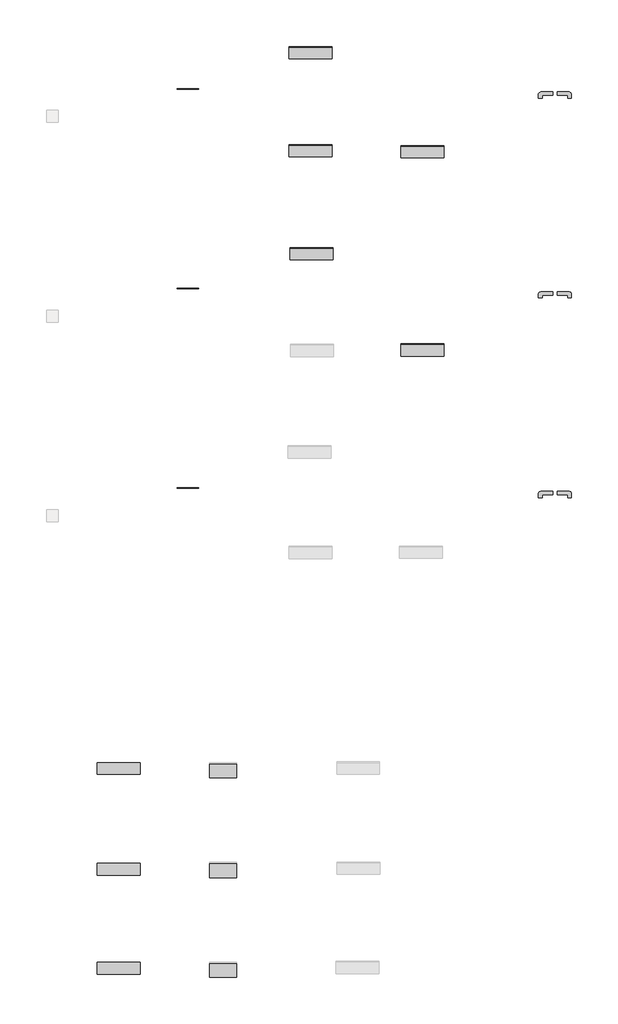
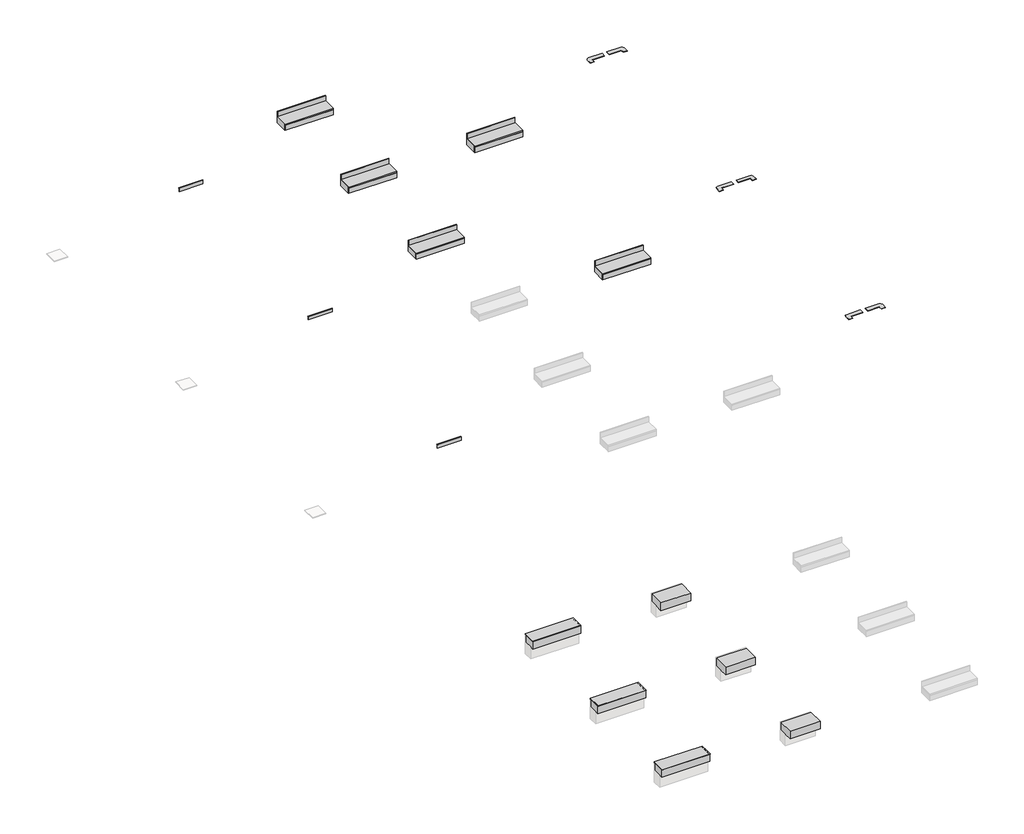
# One storey, part 2 of 2: 18 proxies, 5 stair flights.
"""IFC4 building model written with IfcOpenShell, lengths in millimetres."""

from ifc_helpers import new_model, si_unit, frame, origin, place, context, project, spatial, polyline, outline, extrude, faceted_brep, transform, mapped, element, save
from components import generic_models_5bab8272, generic_models_6290b49e

model = new_model("IFC4")

# Units and contexts
model_context = context("Model", 3, world=origin())
ifc_project = project(units=[si_unit("LENGTHUNIT", "METRE", prefix="MILLI")], contexts=[model_context])

# Site, building, storey
site = spatial("IfcSite", under=ifc_project)
building = spatial("IfcBuilding", under=site)
storey = spatial("IfcBuildingStorey", under=building, Name="EXAGRES_Serie MILAN_Catalogo", Elevation=5000.0)

# Proxies
placement = place(None, origin())
element("IfcBuildingElementProxy", 1, Name="Exagres_Milan_Arena_Rodapie_9x60", ObjectType="Exagres_Milan_Arena_Rodapie_9x60", at=placement, inside=storey, context=model_context, shape_type="SweptSolid", body=[
    extrude(outline(polyline([(-1402.2299086, 5090.0), (-1402.2299086, 5000.0), (-1417.2299086, 5000.0), (-1417.2299086, 5085.0), (-1412.2299086, 5090.0), (-1402.2299086, 5090.0)])), frame((8532.990681, 0.0, 0.0), z_axis=(1.0, 0.0, 0.0), x_axis=(0.0, 1.0, 0.0)), (0.0, 0.0, 1.0), 600.0),
])
element("IfcBuildingElementProxy", 2, Name="Exagres_Milan_Gris_Rodapie_9x60", ObjectType="Exagres_Milan_Gris_Rodapie_9x60", at=placement, inside=storey, context=model_context, shape_type="SweptSolid", body=[
    extrude(outline(polyline([(-7002.2299086, 5090.0), (-7002.2299086, 5000.0), (-7017.2299086, 5000.0), (-7017.2299086, 5085.0), (-7012.2299086, 5090.0), (-7002.2299086, 5090.0)])), frame((8532.990681, 0.0, 0.0), z_axis=(1.0, 0.0, 0.0), x_axis=(0.0, 1.0, 0.0)), (0.0, 0.0, 1.0), 600.0),
])
element("IfcBuildingElementProxy", 3, Name="Exagres_Milan_Marengo_Rodapie_9x60", ObjectType="Exagres_Milan_Marengo_Rodapie_9x60", at=placement, inside=storey, context=model_context, shape_type="SweptSolid", body=[
    extrude(outline(polyline([(-12602.2299086, 5090.0), (-12602.2299086, 5000.0), (-12617.2299086, 5000.0), (-12617.2299086, 5085.0), (-12612.2299086, 5090.0), (-12602.2299086, 5090.0)])), frame((8532.990681, 0.0, 0.0), z_axis=(1.0, 0.0, 0.0), x_axis=(0.0, 1.0, 0.0)), (0.0, 0.0, 1.0), 600.0),
])
element("IfcBuildingElementProxy", 4, Name="Wall Sweeps", at=placement, inside=storey, context=model_context, shape_type="SweptSolid", body=[
    extrude(outline(polyline([(-20321.4497575, 5500.0), (-20321.4497575, 5508.0), (-20320.4497575, 5508.0), (-20320.4497575, 5514.0), (-20321.4497575, 5514.0), (-20321.4497575, 5521.0), (-20328.4497575, 5521.0), (-20328.4497575, 5522.0), (-20332.4497575, 5522.0), (-20332.4497575, 5521.0), (-20338.4497575, 5521.0), (-20338.4497575, 5522.0), (-20342.4497575, 5522.0), (-20342.4497575, 5521.0), (-20348.4497575, 5521.0), (-20348.4497575, 5522.0), (-20352.4497575, 5522.0), (-20352.4497575, 5521.0), (-20358.4497575, 5521.0), (-20358.4497575, 5522.0), (-20362.4497575, 5522.0), (-20362.4497575, 5521.0), (-20368.4497575, 5521.0), (-20368.4497575, 5522.0), (-20372.4497575, 5522.0), (-20372.4497575, 5521.0), (-20378.4497575, 5521.0), (-20378.4497575, 5522.0), (-20382.4497575, 5522.0), (-20382.4497575, 5521.0), (-20388.4497575, 5521.0), (-20388.4497575, 5522.0), (-20392.4497575, 5522.0), (-20392.4497575, 5521.0), (-20398.4497575, 5521.0), (-20398.4497575, 5522.0), (-20402.4497575, 5522.0), (-20402.4497575, 5521.0), (-20408.4497575, 5521.0), (-20408.4497575, 5522.0), (-20412.4497575, 5522.0), (-20412.4497575, 5521.0), (-20418.4497575, 5521.0), (-20418.4497575, 5522.0), (-20422.4497575, 5522.0), (-20422.4497575, 5521.0), (-20428.4497575, 5521.0), (-20428.4497575, 5522.0), (-20432.4497575, 5522.0), (-20432.4497575, 5521.0), (-20438.4497575, 5521.0), (-20438.4497575, 5522.0), (-20442.4497575, 5522.0), (-20442.4497575, 5521.0), (-20448.4497575, 5521.0), (-20448.4497575, 5522.0), (-20452.4497575, 5522.0), (-20452.4497575, 5521.0), (-20458.4497575, 5521.0), (-20458.4497575, 5522.0), (-20462.4497575, 5522.0), (-20462.4497575, 5521.0), (-20468.4497575, 5521.0), (-20468.4497575, 5522.0), (-20472.4497575, 5522.0), (-20472.4497575, 5521.0), (-20478.4497575, 5521.0), (-20478.4497575, 5522.0), (-20482.4497575, 5522.0), (-20482.4497575, 5521.0), (-20488.4497575, 5521.0), (-20488.4497575, 5522.0), (-20492.4497575, 5522.0), (-20492.4497575, 5521.0), (-20498.4497575, 5521.0), (-20498.4497575, 5522.0), (-20502.4497575, 5522.0), (-20502.4497575, 5521.0), (-20508.4497575, 5521.0), (-20508.4497575, 5522.0), (-20512.4497575, 5522.0), (-20512.4497575, 5521.0), (-20518.4497575, 5521.0), (-20518.4497575, 5522.0), (-20522.4497575, 5522.0), (-20522.4497575, 5521.0), (-20528.4497575, 5521.0), (-20528.4497575, 5522.0), (-20532.4497575, 5522.0), (-20532.4497575, 5521.0), (-20538.4497575, 5521.0), (-20538.4497575, 5522.0), (-20542.4497575, 5522.0), (-20542.4497575, 5521.0), (-20548.4497575, 5521.0), (-20548.4497575, 5522.0), (-20552.4497575, 5522.0), (-20552.4497575, 5521.0), (-20558.4497575, 5521.0), (-20558.4497575, 5522.0), (-20562.4497575, 5522.0), (-20562.4497575, 5521.0), (-20568.4497575, 5521.0), (-20568.4497575, 5522.0), (-20572.4497575, 5522.0), (-20572.4497575, 5521.0), (-20578.4497575, 5521.0), (-20578.4497575, 5522.0), (-20582.4497575, 5522.0), (-20582.4497575, 5521.0), (-20588.4497575, 5521.0), (-20588.4497575, 5522.0), (-20592.4497575, 5522.0), (-20592.4497575, 5521.0), (-20598.4497575, 5521.0), (-20598.4497575, 5522.0), (-20602.4497575, 5522.0), (-20602.4497575, 5521.0), (-20608.4497575, 5521.0), (-20608.4497575, 5522.0), (-20612.4497575, 5522.0), (-20612.4497575, 5521.0), (-20618.4497575, 5521.0), (-20618.4497575, 5522.0), (-20622.4497575, 5522.0), (-20622.4497575, 5521.0), (-20628.4497575, 5521.0), (-20628.4497575, 5522.0), (-20632.4497575, 5522.0), (-20632.4497575, 5521.0), (-20638.4497575, 5521.0), (-20638.4497575, 5533.0), (-20308.4497575, 5533.0), (-20308.4497575, 5500.0), (-20321.4497575, 5500.0)])), frame((6298.0543811, 0.0, 0.0), z_axis=(1.0, 0.0, 0.0), x_axis=(0.0, 1.0, 0.0)), (0.0, 0.0, 1.0), 1202.0),
])
element("IfcBuildingElementProxy", 5, Name="Wall Sweeps", at=placement, inside=storey, context=model_context, shape_type="Brep", body=[
    faceted_brep([(6298.0543811, -20628.4497575, 5318.74), (6298.0543811, -20628.4497575, 5518.74), (6298.0543811, -20323.4497575, 5518.74), (6298.0543811, -20323.4497575, 5500.0), (6298.0543811, -20323.4497575, 5318.74), (6298.0543811, -20533.4497575, 5318.74), (7500.0543811, -20628.4497575, 5318.74), (7500.0543811, -20533.4497575, 5318.74), (7500.0543811, -20323.4497575, 5318.74), (7500.0543811, -20323.4497575, 5500.0), (7500.0543811, -20323.4497575, 5518.74), (7500.0543811, -20628.4497575, 5518.74)], [[[0, 1, 2, 3, 4, 5]], [[6, 7, 8, 9, 10, 11]], [[0, 5, 4, 8, 7, 6]], [[4, 3, 2, 10, 9, 8]], [[2, 1, 11, 10]], [[1, 0, 6, 11]]]),
])
element("IfcBuildingElementProxy", 6, Name="Wall Sweeps", at=placement, inside=storey, context=model_context, shape_type="SweptSolid", body=[
    extrude(outline(polyline([(-23146.4497575, 5500.0), (-23146.4497575, 5508.0), (-23145.4497575, 5508.0), (-23145.4497575, 5514.0), (-23146.4497575, 5514.0), (-23146.4497575, 5521.0), (-23153.4497575, 5521.0), (-23153.4497575, 5522.0), (-23157.4497575, 5522.0), (-23157.4497575, 5521.0), (-23163.4497575, 5521.0), (-23163.4497575, 5522.0), (-23167.4497575, 5522.0), (-23167.4497575, 5521.0), (-23173.4497575, 5521.0), (-23173.4497575, 5522.0), (-23177.4497575, 5522.0), (-23177.4497575, 5521.0), (-23183.4497575, 5521.0), (-23183.4497575, 5522.0), (-23187.4497575, 5522.0), (-23187.4497575, 5521.0), (-23193.4497575, 5521.0), (-23193.4497575, 5522.0), (-23197.4497575, 5522.0), (-23197.4497575, 5521.0), (-23203.4497575, 5521.0), (-23203.4497575, 5522.0), (-23207.4497575, 5522.0), (-23207.4497575, 5521.0), (-23213.4497575, 5521.0), (-23213.4497575, 5522.0), (-23217.4497575, 5522.0), (-23217.4497575, 5521.0), (-23223.4497575, 5521.0), (-23223.4497575, 5522.0), (-23227.4497575, 5522.0), (-23227.4497575, 5521.0), (-23233.4497575, 5521.0), (-23233.4497575, 5522.0), (-23237.4497575, 5522.0), (-23237.4497575, 5521.0), (-23243.4497575, 5521.0), (-23243.4497575, 5522.0), (-23247.4497575, 5522.0), (-23247.4497575, 5521.0), (-23253.4497575, 5521.0), (-23253.4497575, 5522.0), (-23257.4497575, 5522.0), (-23257.4497575, 5521.0), (-23263.4497575, 5521.0), (-23263.4497575, 5522.0), (-23267.4497575, 5522.0), (-23267.4497575, 5521.0), (-23273.4497575, 5521.0), (-23273.4497575, 5522.0), (-23277.4497575, 5522.0), (-23277.4497575, 5521.0), (-23283.4497575, 5521.0), (-23283.4497575, 5522.0), (-23287.4497575, 5522.0), (-23287.4497575, 5521.0), (-23293.4497575, 5521.0), (-23293.4497575, 5522.0), (-23297.4497575, 5522.0), (-23297.4497575, 5521.0), (-23303.4497575, 5521.0), (-23303.4497575, 5522.0), (-23307.4497575, 5522.0), (-23307.4497575, 5521.0), (-23313.4497575, 5521.0), (-23313.4497575, 5522.0), (-23317.4497575, 5522.0), (-23317.4497575, 5521.0), (-23323.4497575, 5521.0), (-23323.4497575, 5522.0), (-23327.4497575, 5522.0), (-23327.4497575, 5521.0), (-23333.4497575, 5521.0), (-23333.4497575, 5522.0), (-23337.4497575, 5522.0), (-23337.4497575, 5521.0), (-23343.4497575, 5521.0), (-23343.4497575, 5522.0), (-23347.4497575, 5522.0), (-23347.4497575, 5521.0), (-23353.4497575, 5521.0), (-23353.4497575, 5522.0), (-23357.4497575, 5522.0), (-23357.4497575, 5521.0), (-23363.4497575, 5521.0), (-23363.4497575, 5522.0), (-23367.4497575, 5522.0), (-23367.4497575, 5521.0), (-23373.4497575, 5521.0), (-23373.4497575, 5522.0), (-23377.4497575, 5522.0), (-23377.4497575, 5521.0), (-23383.4497575, 5521.0), (-23383.4497575, 5522.0), (-23387.4497575, 5522.0), (-23387.4497575, 5521.0), (-23393.4497575, 5521.0), (-23393.4497575, 5522.0), (-23397.4497575, 5522.0), (-23397.4497575, 5521.0), (-23403.4497575, 5521.0), (-23403.4497575, 5522.0), (-23407.4497575, 5522.0), (-23407.4497575, 5521.0), (-23413.4497575, 5521.0), (-23413.4497575, 5522.0), (-23417.4497575, 5522.0), (-23417.4497575, 5521.0), (-23423.4497575, 5521.0), (-23423.4497575, 5522.0), (-23427.4497575, 5522.0), (-23427.4497575, 5521.0), (-23433.4497575, 5521.0), (-23433.4497575, 5522.0), (-23437.4497575, 5522.0), (-23437.4497575, 5521.0), (-23443.4497575, 5521.0), (-23443.4497575, 5522.0), (-23447.4497575, 5522.0), (-23447.4497575, 5521.0), (-23453.4497575, 5521.0), (-23453.4497575, 5522.0), (-23457.4497575, 5522.0), (-23457.4497575, 5521.0), (-23463.4497575, 5521.0), (-23463.4497575, 5533.0), (-23133.4497575, 5533.0), (-23133.4497575, 5500.0), (-23146.4497575, 5500.0)])), frame((6298.0543811, 0.0, 0.0), z_axis=(1.0, 0.0, 0.0), x_axis=(0.0, 1.0, 0.0)), (0.0, 0.0, 1.0), 1202.0),
])
element("IfcBuildingElementProxy", 7, Name="Wall Sweeps", at=placement, inside=storey, context=model_context, shape_type="Brep", body=[
    faceted_brep([(6298.0543811, -23453.4497575, 5318.74), (6298.0543811, -23453.4497575, 5518.74), (6298.0543811, -23148.4497575, 5518.74), (6298.0543811, -23148.4497575, 5500.0), (6298.0543811, -23148.4497575, 5318.74), (6298.0543811, -23358.4497575, 5318.74), (7500.0543811, -23453.4497575, 5318.74), (7500.0543811, -23358.4497575, 5318.74), (7500.0543811, -23148.4497575, 5318.74), (7500.0543811, -23148.4497575, 5500.0), (7500.0543811, -23148.4497575, 5518.74), (7500.0543811, -23453.4497575, 5518.74)], [[[0, 1, 2, 3, 4, 5]], [[6, 7, 8, 9, 10, 11]], [[0, 5, 4, 8, 7, 6]], [[4, 3, 2, 10, 9, 8]], [[2, 1, 11, 10]], [[1, 0, 6, 11]]]),
])
element("IfcBuildingElementProxy", 8, Name="Wall Sweeps", at=placement, inside=storey, context=model_context, shape_type="SweptSolid", body=[
    extrude(outline(polyline([(-25921.4497575, 5500.0), (-25921.4497575, 5508.0), (-25920.4497575, 5508.0), (-25920.4497575, 5514.0), (-25921.4497575, 5514.0), (-25921.4497575, 5521.0), (-25928.4497575, 5521.0), (-25928.4497575, 5522.0), (-25932.4497575, 5522.0), (-25932.4497575, 5521.0), (-25938.4497575, 5521.0), (-25938.4497575, 5522.0), (-25942.4497575, 5522.0), (-25942.4497575, 5521.0), (-25948.4497575, 5521.0), (-25948.4497575, 5522.0), (-25952.4497575, 5522.0), (-25952.4497575, 5521.0), (-25958.4497575, 5521.0), (-25958.4497575, 5522.0), (-25962.4497575, 5522.0), (-25962.4497575, 5521.0), (-25968.4497575, 5521.0), (-25968.4497575, 5522.0), (-25972.4497575, 5522.0), (-25972.4497575, 5521.0), (-25978.4497575, 5521.0), (-25978.4497575, 5522.0), (-25982.4497575, 5522.0), (-25982.4497575, 5521.0), (-25988.4497575, 5521.0), (-25988.4497575, 5522.0), (-25992.4497575, 5522.0), (-25992.4497575, 5521.0), (-25998.4497575, 5521.0), (-25998.4497575, 5522.0), (-26002.4497575, 5522.0), (-26002.4497575, 5521.0), (-26008.4497575, 5521.0), (-26008.4497575, 5522.0), (-26012.4497575, 5522.0), (-26012.4497575, 5521.0), (-26018.4497575, 5521.0), (-26018.4497575, 5522.0), (-26022.4497575, 5522.0), (-26022.4497575, 5521.0), (-26028.4497575, 5521.0), (-26028.4497575, 5522.0), (-26032.4497575, 5522.0), (-26032.4497575, 5521.0), (-26038.4497575, 5521.0), (-26038.4497575, 5522.0), (-26042.4497575, 5522.0), (-26042.4497575, 5521.0), (-26048.4497575, 5521.0), (-26048.4497575, 5522.0), (-26052.4497575, 5522.0), (-26052.4497575, 5521.0), (-26058.4497575, 5521.0), (-26058.4497575, 5522.0), (-26062.4497575, 5522.0), (-26062.4497575, 5521.0), (-26068.4497575, 5521.0), (-26068.4497575, 5522.0), (-26072.4497575, 5522.0), (-26072.4497575, 5521.0), (-26078.4497575, 5521.0), (-26078.4497575, 5522.0), (-26082.4497575, 5522.0), (-26082.4497575, 5521.0), (-26088.4497575, 5521.0), (-26088.4497575, 5522.0), (-26092.4497575, 5522.0), (-26092.4497575, 5521.0), (-26098.4497575, 5521.0), (-26098.4497575, 5522.0), (-26102.4497575, 5522.0), (-26102.4497575, 5521.0), (-26108.4497575, 5521.0), (-26108.4497575, 5522.0), (-26112.4497575, 5522.0), (-26112.4497575, 5521.0), (-26118.4497575, 5521.0), (-26118.4497575, 5522.0), (-26122.4497575, 5522.0), (-26122.4497575, 5521.0), (-26128.4497575, 5521.0), (-26128.4497575, 5522.0), (-26132.4497575, 5522.0), (-26132.4497575, 5521.0), (-26138.4497575, 5521.0), (-26138.4497575, 5522.0), (-26142.4497575, 5522.0), (-26142.4497575, 5521.0), (-26148.4497575, 5521.0), (-26148.4497575, 5522.0), (-26152.4497575, 5522.0), (-26152.4497575, 5521.0), (-26158.4497575, 5521.0), (-26158.4497575, 5522.0), (-26162.4497575, 5522.0), (-26162.4497575, 5521.0), (-26168.4497575, 5521.0), (-26168.4497575, 5522.0), (-26172.4497575, 5522.0), (-26172.4497575, 5521.0), (-26178.4497575, 5521.0), (-26178.4497575, 5522.0), (-26182.4497575, 5522.0), (-26182.4497575, 5521.0), (-26188.4497575, 5521.0), (-26188.4497575, 5522.0), (-26192.4497575, 5522.0), (-26192.4497575, 5521.0), (-26198.4497575, 5521.0), (-26198.4497575, 5522.0), (-26202.4497575, 5522.0), (-26202.4497575, 5521.0), (-26208.4497575, 5521.0), (-26208.4497575, 5522.0), (-26212.4497575, 5522.0), (-26212.4497575, 5521.0), (-26218.4497575, 5521.0), (-26218.4497575, 5522.0), (-26222.4497575, 5522.0), (-26222.4497575, 5521.0), (-26228.4497575, 5521.0), (-26228.4497575, 5522.0), (-26232.4497575, 5522.0), (-26232.4497575, 5521.0), (-26238.4497575, 5521.0), (-26238.4497575, 5533.0), (-25908.4497575, 5533.0), (-25908.4497575, 5500.0), (-25921.4497575, 5500.0)])), frame((6298.0543811, 0.0, 0.0), z_axis=(1.0, 0.0, 0.0), x_axis=(0.0, 1.0, 0.0)), (0.0, 0.0, 1.0), 1202.0),
])
element("IfcBuildingElementProxy", 9, Name="Wall Sweeps", at=placement, inside=storey, context=model_context, shape_type="Brep", body=[
    faceted_brep([(6298.0543811, -26228.4497575, 5318.74), (6298.0543811, -26228.4497575, 5518.74), (6298.0543811, -25923.4497575, 5518.74), (6298.0543811, -25923.4497575, 5500.0), (6298.0543811, -25923.4497575, 5318.74), (6298.0543811, -26133.4497575, 5318.74), (7500.0543811, -26228.4497575, 5318.74), (7500.0543811, -26133.4497575, 5318.74), (7500.0543811, -25923.4497575, 5318.74), (7500.0543811, -25923.4497575, 5500.0), (7500.0543811, -25923.4497575, 5518.74), (7500.0543811, -26228.4497575, 5518.74)], [[[0, 1, 2, 3, 4, 5]], [[6, 7, 8, 9, 10, 11]], [[0, 5, 4, 8, 7, 6]], [[4, 3, 2, 10, 9, 8]], [[2, 1, 11, 10]], [[1, 0, 6, 11]]]),
])
element("IfcBuildingElementProxy", 10, Name="Wall Sweeps", at=placement, inside=storey, context=model_context, shape_type="Brep", body=[
    faceted_brep([(9448.0543811, -20733.4497575, 5300.0), (9448.0543811, -20733.4497575, 5500.0), (9448.0543811, -20333.4497575, 5500.0), (9448.0543811, -20333.4497575, 5300.0), (9448.0543811, -20533.4497575, 5300.0), (10198.0543811, -20733.4497575, 5300.0), (10198.0543811, -20533.4497575, 5300.0), (10198.0543811, -20333.4497575, 5300.0), (10198.0543811, -20333.4497575, 5500.0), (10198.0543811, -20733.4497575, 5500.0)], [[[0, 1, 2, 3, 4]], [[5, 6, 7, 8, 9]], [[0, 4, 3, 7, 6, 5]], [[3, 2, 8, 7]], [[2, 1, 9, 8]], [[1, 0, 5, 9]]]),
])
element("IfcBuildingElementProxy", 11, Name="Wall Sweeps", at=placement, inside=storey, context=model_context, shape_type="Brep", body=[
    faceted_brep([(9448.0543811, -23533.4497575, 5300.0), (9448.0543811, -23533.4497575, 5500.0), (9448.0543811, -23133.4497575, 5500.0), (9448.0543811, -23133.4497575, 5300.0), (9448.0543811, -23333.4497575, 5300.0), (10198.0543811, -23533.4497575, 5300.0), (10198.0543811, -23333.4497575, 5300.0), (10198.0543811, -23133.4497575, 5300.0), (10198.0543811, -23133.4497575, 5500.0), (10198.0543811, -23533.4497575, 5500.0)], [[[0, 1, 2, 3, 4]], [[5, 6, 7, 8, 9]], [[0, 4, 3, 7, 6, 5]], [[3, 2, 8, 7]], [[2, 1, 9, 8]], [[1, 0, 5, 9]]]),
])
element("IfcBuildingElementProxy", 12, Name="Wall Sweeps", at=placement, inside=storey, context=model_context, shape_type="Brep", body=[
    faceted_brep([(9448.0543811, -26333.4497575, 5300.0), (9448.0543811, -26333.4497575, 5500.0), (9448.0543811, -25933.4497575, 5500.0), (9448.0543811, -25933.4497575, 5300.0), (9448.0543811, -26133.4497575, 5300.0), (10198.0543811, -26333.4497575, 5300.0), (10198.0543811, -26133.4497575, 5300.0), (10198.0543811, -25933.4497575, 5300.0), (10198.0543811, -25933.4497575, 5500.0), (10198.0543811, -26333.4497575, 5500.0)], [[[0, 1, 2, 3, 4]], [[5, 6, 7, 8, 9]], [[0, 4, 3, 7, 6, 5]], [[3, 2, 8, 7]], [[2, 1, 9, 8]], [[1, 0, 5, 9]]]),
])
generic_models_shape = generic_models_5bab8272(model_context)
element("IfcBuildingElementProxy", 13, Name="Zanquin Recto 42.3x17.5 : Exagres_Milan_Marengo_Zanquin_Rect_Izq", ObjectType="Zanquin Recto 42.3x17.5 : Exagres_Milan_Marengo_Zanquin_Rect_Izq", at=placement, inside=storey, context=model_context, shape_type="MappedRepresentation", body=[
    mapped(generic_models_shape, transform((18782.0707994, -12795.5173558, 5000.0), x_axis=(1.0, 0.0, 0.0), y_axis=(0.0, 1.0, 0.0), z_axis=(0.0, 0.0, 1.0))),
])
element("IfcBuildingElementProxy", 14, Name="Zanquin Recto 42.3x17.5 : Exagres_Milan_Gris_Zanquin_Rect_Izq", ObjectType="Zanquin Recto 42.3x17.5 : Exagres_Milan_Gris_Zanquin_Rect_Izq", at=placement, inside=storey, context=model_context, shape_type="MappedRepresentation", body=[
    mapped(generic_models_shape, transform((18782.0707994, -7195.5173558, 5000.0), x_axis=(1.0, 0.0, 0.0), y_axis=(0.0, 1.0, 0.0), z_axis=(0.0, 0.0, 1.0))),
])
element("IfcBuildingElementProxy", 15, Name="Zanquin Recto 42.3x17.5 : Exagres_Milan_Arena_Zanquin_Rect_Izq", ObjectType="Zanquin Recto 42.3x17.5 : Exagres_Milan_Arena_Zanquin_Rect_Izq", at=placement, inside=storey, context=model_context, shape_type="MappedRepresentation", body=[
    mapped(generic_models_shape, transform((18782.0707994, -1595.5173558, 5000.0), x_axis=(1.0, 0.0, 0.0), y_axis=(0.0, 1.0, 0.0), z_axis=(0.0, 0.0, 1.0))),
])
generic_models_2_shape = generic_models_6290b49e(model_context)
element("IfcBuildingElementProxy", 16, Name="Zanquin Recto 42.3x17.5 : Exagres_Milan_Arena_Zanquin_Rect_Der", ObjectType="Zanquin Recto 42.3x17.5 : Exagres_Milan_Arena_Zanquin_Rect_Der", at=placement, inside=storey, context=model_context, shape_type="MappedRepresentation", body=[
    mapped(generic_models_2_shape, transform((19503.4839143, -1595.5173558, 5000.0), x_axis=(-1.0, 0.0, 0.0), y_axis=(0.0, -1.0, 0.0), z_axis=(0.0, 0.0, 1.0))),
])
element("IfcBuildingElementProxy", 17, Name="Zanquin Recto 42.3x17.5 : Exagres_Milan_Marengo_Zanquin_Rect_Der", ObjectType="Zanquin Recto 42.3x17.5 : Exagres_Milan_Marengo_Zanquin_Rect_Der", at=placement, inside=storey, context=model_context, shape_type="MappedRepresentation", body=[
    mapped(generic_models_2_shape, transform((19503.4839143, -12795.5173558, 5000.0), x_axis=(-1.0, 0.0, 0.0), y_axis=(0.0, -1.0, 0.0), z_axis=(0.0, 0.0, 1.0))),
])
element("IfcBuildingElementProxy", 18, Name="Zanquin Recto 42.3x17.5 : Exagres_Milan_Gris_Zanquin_Rect_Der", ObjectType="Zanquin Recto 42.3x17.5 : Exagres_Milan_Gris_Zanquin_Rect_Der", at=placement, inside=storey, context=model_context, shape_type="MappedRepresentation", body=[
    mapped(generic_models_2_shape, transform((19503.4839143, -7195.5173558, 5000.0), x_axis=(-1.0, 0.0, 0.0), y_axis=(0.0, -1.0, 0.0), z_axis=(0.0, 0.0, 1.0))),
])

# Stair flights
element("IfcStairFlight", 19, ObjectType="EXAGRES_Recto - Milán Arena C3", at=placement, inside=storey, context=model_context, shape_type="SweptSolid", body=[
    extrude(outline(polyline([(11681.9669384, -3305.489073), (11681.9669384, -2975.489073), (12881.9669384, -2975.489073), (12881.9669384, -3305.489073), (11681.9669384, -3305.489073)])), frame((0.0, 0.0, 5000.0), z_axis=(0.0, 0.0, 1.0), x_axis=(1.0, 0.0, 0.0)), (0.0, 0.0, 1.0), 151.6666667),
    extrude(outline(polyline([(-2975.489073, 5151.6666667), (-3302.5795241, 5151.6666667), (-3302.5795241, 5154.6666667), (-3307.489073, 5154.6666667), (-3307.489073, 5147.6666667), (-3308.489073, 5147.6666667), (-3308.489073, 5141.6666667), (-3307.489073, 5141.6666667), (-3307.489073, 5133.6666667), (-3320.489073, 5133.6666667), (-3320.489073, 5166.6666667), (-2975.489073, 5166.6666667), (-2975.489073, 5151.6666667)])), frame((11681.9669384, 0.0, 0.0), z_axis=(1.0, 0.0, 0.0), x_axis=(0.0, 1.0, 0.0)), (0.0, 0.0, 1.0), 1200.0),
    extrude(outline(polyline([(12881.9669384, -3305.489073), (12881.9669384, -3320.489073), (11681.9669384, -3320.489073), (11681.9669384, -3305.489073), (12881.9669384, -3305.489073)])), frame((0.0, 0.0, 5000.0), z_axis=(0.0, 0.0, 1.0), x_axis=(1.0, 0.0, 0.0)), (0.0, 0.0, 1.0), 133.6666667),
    extrude(outline(polyline([(12881.9669384, -2975.489073), (12881.9669384, -2990.489073), (11681.9669384, -2990.489073), (11681.9669384, -2975.489073), (12881.9669384, -2975.489073)])), frame((0.0, 0.0, 5166.6666667), z_axis=(0.0, 0.0, 1.0), x_axis=(1.0, 0.0, 0.0)), (0.0, 0.0, 1.0), 133.6666667),
])
element("IfcStairFlight", 20, ObjectType="EXAGRES_Recto - Milán Arena C1", at=placement, inside=storey, context=model_context, shape_type="SweptSolid", body=[
    extrude(outline(polyline([(11681.7321573, -552.6728431), (11681.7321573, -222.6728431), (12881.7321573, -222.6728431), (12881.7321573, -552.6728431), (11681.7321573, -552.6728431)])), frame((0.0, 0.0, 5000.0), z_axis=(0.0, 0.0, 1.0), x_axis=(1.0, 0.0, 0.0)), (0.0, 0.0, 1.0), 151.6666667),
    extrude(outline(polyline([(-222.6728431, 5151.6666667), (-549.7632942, 5151.6666667), (-549.7632942, 5154.6666667), (-554.6728431, 5154.6666667), (-554.6728431, 5147.6666667), (-555.6728431, 5147.6666667), (-555.6728431, 5141.6666667), (-554.6728431, 5141.6666667), (-554.6728431, 5133.6666667), (-567.6728431, 5133.6666667), (-567.6728431, 5166.6666667), (-222.6728431, 5166.6666667), (-222.6728431, 5151.6666667)])), frame((11681.7321573, 0.0, 0.0), z_axis=(1.0, 0.0, 0.0), x_axis=(0.0, 1.0, 0.0)), (0.0, 0.0, 1.0), 1200.0),
    extrude(outline(polyline([(12881.7321573, -552.6728431), (12881.7321573, -567.6728431), (11681.7321573, -567.6728431), (11681.7321573, -552.6728431), (12881.7321573, -552.6728431)])), frame((0.0, 0.0, 5000.0), z_axis=(0.0, 0.0, 1.0), x_axis=(1.0, 0.0, 0.0)), (0.0, 0.0, 1.0), 133.6666667),
    extrude(outline(polyline([(12881.7321573, -222.6728431), (12881.7321573, -237.6728431), (11681.7321573, -237.6728431), (11681.7321573, -222.6728431), (12881.7321573, -222.6728431)])), frame((0.0, 0.0, 5166.6666667), z_axis=(0.0, 0.0, 1.0), x_axis=(1.0, 0.0, 0.0)), (0.0, 0.0, 1.0), 133.6666667),
])
element("IfcStairFlight", 21, ObjectType="EXAGRES_Recto - Milán Gris C1", at=placement, inside=storey, context=model_context, shape_type="SweptSolid", body=[
    extrude(outline(polyline([(11707.0704591, -6193.5879699), (11707.0704591, -5863.5879699), (12907.0704591, -5863.5879699), (12907.0704591, -6193.5879699), (11707.0704591, -6193.5879699)])), frame((0.0, 0.0, 5000.0), z_axis=(0.0, 0.0, 1.0), x_axis=(1.0, 0.0, 0.0)), (0.0, 0.0, 1.0), 151.6666667),
    extrude(outline(polyline([(-5863.5879699, 5151.6666667), (-6190.678421, 5151.6666667), (-6190.678421, 5154.6666667), (-6195.5879699, 5154.6666667), (-6195.5879699, 5147.6666667), (-6196.5879699, 5147.6666667), (-6196.5879699, 5141.6666667), (-6195.5879699, 5141.6666667), (-6195.5879699, 5133.6666667), (-6208.5879699, 5133.6666667), (-6208.5879699, 5166.6666667), (-5863.5879699, 5166.6666667), (-5863.5879699, 5151.6666667)])), frame((11707.0704591, 0.0, 0.0), z_axis=(1.0, 0.0, 0.0), x_axis=(0.0, 1.0, 0.0)), (0.0, 0.0, 1.0), 1200.0),
    extrude(outline(polyline([(12907.0704591, -6193.5879699), (12907.0704591, -6208.5879699), (11707.0704591, -6208.5879699), (11707.0704591, -6193.5879699), (12907.0704591, -6193.5879699)])), frame((0.0, 0.0, 5000.0), z_axis=(0.0, 0.0, 1.0), x_axis=(1.0, 0.0, 0.0)), (0.0, 0.0, 1.0), 133.6666667),
    extrude(outline(polyline([(12907.0704591, -5863.5879699), (12907.0704591, -5878.5879699), (11707.0704591, -5878.5879699), (11707.0704591, -5863.5879699), (12907.0704591, -5863.5879699)])), frame((0.0, 0.0, 5166.6666667), z_axis=(0.0, 0.0, 1.0), x_axis=(1.0, 0.0, 0.0)), (0.0, 0.0, 1.0), 133.6666667),
])
element("IfcStairFlight", 22, ObjectType="EXAGRES_Recto_33x33 - Milán Arena C3", at=placement, inside=storey, context=model_context, shape_type="SweptSolid", body=[
    extrude(outline(polyline([(14821.5097285, -3330.2584821), (14821.5097285, -3000.2584821), (16021.5097285, -3000.2584821), (16021.5097285, -3330.2584821), (14821.5097285, -3330.2584821)])), frame((0.0, 0.0, 5000.0), z_axis=(0.0, 0.0, 1.0), x_axis=(1.0, 0.0, 0.0)), (0.0, 0.0, 1.0), 151.6666667),
    extrude(outline(polyline([(-3000.2584821, 5151.6666667), (-3327.3489332, 5151.6666667), (-3327.3489332, 5154.6666667), (-3332.2584821, 5154.6666667), (-3332.2584821, 5147.6666667), (-3333.2584821, 5147.6666667), (-3333.2584821, 5141.6666667), (-3332.2584821, 5141.6666667), (-3332.2584821, 5133.6666667), (-3345.2584821, 5133.6666667), (-3345.2584821, 5166.6666667), (-3000.2584821, 5166.6666667), (-3000.2584821, 5151.6666667)])), frame((14821.5097285, 0.0, 0.0), z_axis=(1.0, 0.0, 0.0), x_axis=(0.0, 1.0, 0.0)), (0.0, 0.0, 1.0), 1200.0),
    extrude(outline(polyline([(16021.5097285, -3330.2584821), (16021.5097285, -3345.2584821), (14821.5097285, -3345.2584821), (14821.5097285, -3330.2584821), (16021.5097285, -3330.2584821)])), frame((0.0, 0.0, 5000.0), z_axis=(0.0, 0.0, 1.0), x_axis=(1.0, 0.0, 0.0)), (0.0, 0.0, 1.0), 133.6666667),
    extrude(outline(polyline([(16021.5097285, -3000.2584821), (16021.5097285, -3015.2584821), (14821.5097285, -3015.2584821), (14821.5097285, -3000.2584821), (16021.5097285, -3000.2584821)])), frame((0.0, 0.0, 5166.6666667), z_axis=(0.0, 0.0, 1.0), x_axis=(1.0, 0.0, 0.0)), (0.0, 0.0, 1.0), 133.6666667),
])
element("IfcStairFlight", 23, ObjectType="EXAGRES_Recto_33x33 - Milán Gris C3", at=placement, inside=storey, context=model_context, shape_type="SweptSolid", body=[
    extrude(outline(polyline([(14819.7478613, -8889.7940934), (14819.7478613, -8559.7940934), (16019.7478613, -8559.7940934), (16019.7478613, -8889.7940934), (14819.7478613, -8889.7940934)])), frame((0.0, 0.0, 5000.0), z_axis=(0.0, 0.0, 1.0), x_axis=(1.0, 0.0, 0.0)), (0.0, 0.0, 1.0), 151.6666667),
    extrude(outline(polyline([(-8559.7940934, 5151.6666667), (-8886.8845445, 5151.6666667), (-8886.8845445, 5154.6666667), (-8891.7940934, 5154.6666667), (-8891.7940934, 5147.6666667), (-8892.7940934, 5147.6666667), (-8892.7940934, 5141.6666667), (-8891.7940934, 5141.6666667), (-8891.7940934, 5133.6666667), (-8904.7940934, 5133.6666667), (-8904.7940934, 5166.6666667), (-8559.7940934, 5166.6666667), (-8559.7940934, 5151.6666667)])), frame((14819.7478613, 0.0, 0.0), z_axis=(1.0, 0.0, 0.0), x_axis=(0.0, 1.0, 0.0)), (0.0, 0.0, 1.0), 1200.0),
    extrude(outline(polyline([(16019.7478613, -8889.7940934), (16019.7478613, -8904.7940934), (14819.7478613, -8904.7940934), (14819.7478613, -8889.7940934), (16019.7478613, -8889.7940934)])), frame((0.0, 0.0, 5000.0), z_axis=(0.0, 0.0, 1.0), x_axis=(1.0, 0.0, 0.0)), (0.0, 0.0, 1.0), 133.6666667),
    extrude(outline(polyline([(16019.7478613, -8559.7940934), (16019.7478613, -8574.7940934), (14819.7478613, -8574.7940934), (14819.7478613, -8559.7940934), (16019.7478613, -8559.7940934)])), frame((0.0, 0.0, 5166.6666667), z_axis=(0.0, 0.0, 1.0), x_axis=(1.0, 0.0, 0.0)), (0.0, 0.0, 1.0), 133.6666667),
])

save(model, "model.ifc")
